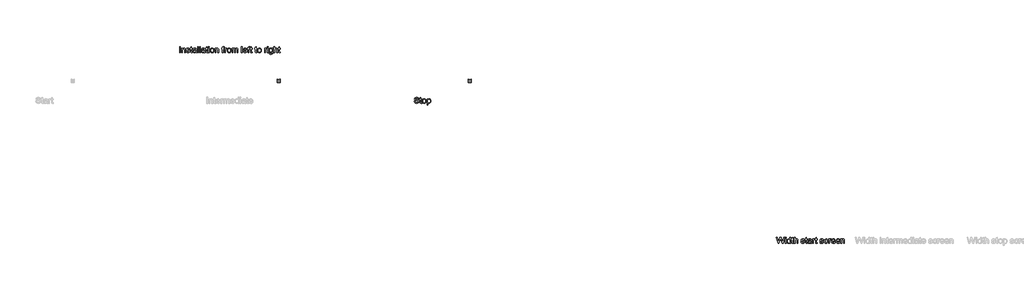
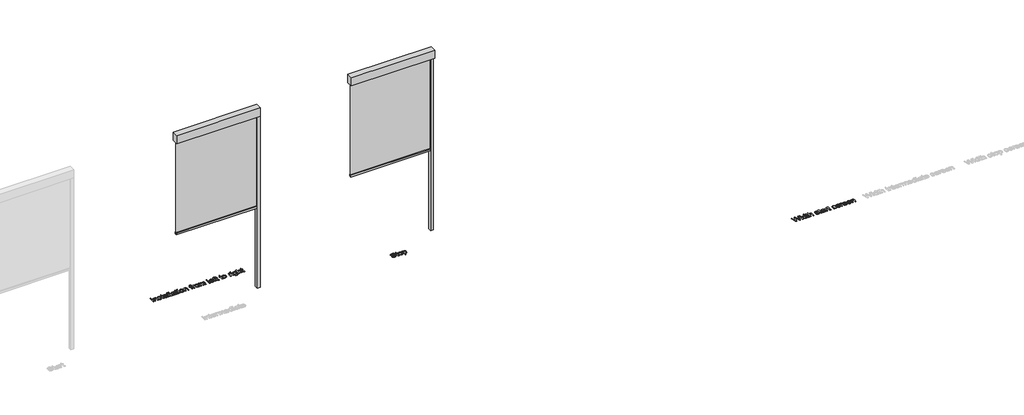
# One storey, part 2 of 4: 5 proxies.
"""IFC4 building model written with IfcOpenShell, lengths in millimetres."""

from ifc_helpers import new_model, si_unit, origin, origin_with_axes, place, context, project, spatial, polyline, outline, extrude, transform, mapped, element, save
from components import generic_models_1d95561a, generic_models_dffd3d31

model = new_model("IFC4")

# Units and contexts
model_context = context("Model", 3, world=origin())
ifc_project = project(units=[si_unit("LENGTHUNIT", "METRE", prefix="MILLI")], contexts=[model_context])

# Site, building, storey
site = spatial("IfcSite", under=ifc_project)
building = spatial("IfcBuilding", under=site)
storey = spatial("IfcBuildingStorey", under=building, Name="Fixscreen Mini CW50 Reynaers Overview Top", Elevation=0.0)

# Proxies
placement = place(None, origin())
generic_models_shape = generic_models_1d95561a(model_context)
element("IfcBuildingElementProxy", 1, Name="Renson_Fixscreen_Minimal_CW50_Reynaers_End : For Reynaers curtain wall - End element - Access downwards - Fabric close to the window", ObjectType="Renson_Fixscreen_Minimal_CW50_Reynaers_End : For Reynaers curtain wall - End element - Access downwards - Fabric close to the window", at=placement, inside=storey, context=model_context, shape_type="MappedRepresentation", body=[
    mapped(generic_models_shape, transform((-860.9331588, -2499.9217625, 0.0), x_axis=(1.0, 0.0, 0.0), y_axis=(0.0, 1.0, 0.0), z_axis=(0.0, 0.0, 1.0))),
])
generic_models_2_shape = generic_models_dffd3d31(model_context)
element("IfcBuildingElementProxy", 2, Name="Renson_Fixscreen_Minimal_CW50_Reynaers_Middle : For Reynaers curtain wall - Middle element - Access downwards - Fabric close to the window", ObjectType="Renson_Fixscreen_Minimal_CW50_Reynaers_Middle : For Reynaers curtain wall - Middle element - Access downwards - Fabric close to the window", at=placement, inside=storey, context=model_context, shape_type="MappedRepresentation", body=[
    mapped(generic_models_2_shape, transform((-4020.9331588, -2499.9217625, 0.0), x_axis=(1.0, 0.0, 0.0), y_axis=(0.0, 1.0, 0.0), z_axis=(0.0, 0.0, 1.0))),
])
element("IfcBuildingElementProxy", 3, Name="100mm Arial", ObjectType="100mm Arial", at=placement, inside=storey, context=model_context, shape_type="SweptSolid", body=[
    extrude(outline(polyline([(4744.2089221, -5915.7019445), (4716.8139762, -5815.2456344), (4729.7634225, -5815.2456344), (4745.6559247, -5881.2681898), (4750.5610179, -5901.6488523), (4755.8094677, -5883.6226345), (4775.7241464, -5815.2456344), (4794.3880263, -5815.2456344), (4808.8580514, -5864.8116019), (4819.6247312, -5901.6488523), (4824.3826716, -5881.856801), (4840.4223266, -5815.2456344), (4853.3717728, -5815.2456344), (4825.9523015, -5915.7019445), (4812.5368714, -5915.7019445), (4788.4528634, -5838.2014709), (4785.0928745, -5827.3857402), (4781.3159527, -5840.4087628), (4759.3656603, -5915.7019445), (4744.2089221, -5915.7019445)])), origin_with_axes(), (0.0, 0.0, 1.0), 5.0),
    extrude(outline(polyline([(4864.3591818, -5915.7019445), (4864.3591818, -5841.9293418), (4876.9162205, -5841.9293418), (4876.9162205, -5915.7019445), (4864.3591818, -5915.7019445)])), origin_with_axes(), (0.0, 0.0, 1.0), 5.0),
    extrude(outline(polyline([(4864.3591818, -5827.8026731), (4864.3591818, -5815.2456344), (4876.9162205, -5815.2456344), (4876.9162205, -5827.8026731), (4864.3591818, -5827.8026731)])), origin_with_axes(), (0.0, 0.0, 1.0), 5.0),
    extrude(outline(polyline([(4941.2710442, -5915.7019445), (4941.2710442, -5903.8561443), (4932.9630425, -5913.9177168), (4921.4789929, -5917.2715744), (4905.9298472, -5912.415532), (4894.9424383, -5898.8652119), (4891.0428891, -5878.8892195), (4894.63587, -5858.9009645), (4905.4025497, -5845.1421778), (4921.4299419, -5840.3597119), (4933.0059621, -5843.7810145), (4941.2710442, -5852.671496), (4941.2710442, -5815.2456344), (4953.828083, -5815.2456344), (4953.828083, -5915.7019445), (4941.2710442, -5915.7019445)]), holes=[polyline([(4903.5999279, -5878.8401686), (4905.0162736, -5890.1985252), (4909.2653106, -5898.2766007), (4915.4395968, -5903.1050519), (4922.6316898, -5904.7145356), (4929.8207171, -5903.1786283), (4935.8386534, -5898.5709063), (4939.9129465, -5890.8055305), (4941.2710442, -5879.7966618), (4939.8884211, -5867.7607892), (4935.7405516, -5859.4159993), (4929.5693311, -5854.5415628), (4922.116655, -5852.9167507), (4914.8509856, -5854.4771835), (4908.8974286, -5859.1584819), (4904.9243031, -5867.1997691), (4903.5999279, -5878.8401686)])]), origin_with_axes(), (0.0, 0.0, 1.0), 5.0),
    extrude(outline(polyline([(4999.3473485, -5905.2295704), (5000.9169784, -5916.0698265), (4991.5237248, -5917.2715744), (4981.0022997, -5915.1869097), (4975.7538499, -5909.7177307), (4974.233271, -5895.4684348), (4974.233271, -5854.4863805), (4964.8154919, -5854.4863805), (4964.8154919, -5841.9293418), (4974.233271, -5841.9293418), (4974.233271, -5824.0012259), (4986.7903098, -5816.6190605), (4986.7903098, -5841.9293418), (4999.3473485, -5841.9293418), (4999.3473485, -5854.4863805), (4986.7903098, -5854.4863805), (4986.7903098, -5895.1005528), (4987.4524974, -5901.5752759), (4989.5984757, -5903.868407), (4993.8781695, -5904.7145356), (4999.3473485, -5905.2295704)])), origin_with_axes(), (0.0, 0.0, 1.0), 5.0),
    extrude(outline(polyline([(5011.9043873, -5915.7019445), (5011.9043873, -5815.2456344), (5024.4614261, -5815.2456344), (5024.4614261, -5852.1809867), (5034.2532185, -5843.3150306), (5046.3136166, -5840.3597119), (5060.4157597, -5843.5848107), (5068.9751475, -5852.4998178), (5071.5503214, -5869.0054566), (5071.5503214, -5915.7019445), (5058.9932827, -5915.7019445), (5058.9932827, -5870.3053063), (5054.9956317, -5857.0615545), (5043.6648662, -5852.9167507), (5033.3764331, -5855.7126538), (5026.5093025, -5863.2910229), (5024.4614261, -5876.5102493), (5024.4614261, -5915.7019445), (5011.9043873, -5915.7019445)])), origin_with_axes(), (0.0, 0.0, 1.0), 5.0),
    extrude(outline(polyline([(5123.3481064, -5893.7271267), (5135.9051451, -5892.1574968), (5141.7176807, -5901.477174), (5155.0350089, -5904.7145356), (5167.8373023, -5901.7469542), (5172.0066316, -5894.7817217), (5167.8127769, -5889.1408645), (5154.8878561, -5885.5601464), (5135.9787215, -5879.4165171), (5127.7259021, -5872.2428182), (5124.9177362, -5862.1138006), (5127.1740791, -5852.7573351), (5133.3299712, -5845.6081617), (5141.3130105, -5841.8925536), (5152.1164784, -5840.3597119), (5167.3958439, -5842.8245213), (5177.1079286, -5849.4954481), (5181.4244107, -5860.7648999), (5168.8673719, -5862.3345298), (5164.1462196, -5855.4060855), (5153.097497, -5852.9167507), (5141.0800185, -5855.2957209), (5137.474775, -5860.8384763), (5138.9708284, -5864.4927708), (5143.6551925, -5867.2641485), (5154.4709232, -5869.9374243), (5172.9018111, -5875.8480617), (5181.4611989, -5882.543514), (5184.5636704, -5893.4573465), (5180.9216386, -5905.4748251), (5170.4124763, -5914.1936283), (5154.8633306, -5917.2715744), (5142.2020586, -5915.7877837), (5132.9620892, -5911.3364115), (5126.7939344, -5903.9665089), (5123.3481064, -5893.7271267)])), origin_with_axes(), (0.0, 0.0, 1.0), 5.0),
    extrude(outline(polyline([(5225.3740464, -5905.2295704), (5226.9436762, -5916.0698265), (5217.5504226, -5917.2715744), (5207.0289975, -5915.1869097), (5201.7805477, -5909.7177307), (5200.2599688, -5895.4684348), (5200.2599688, -5854.4863805), (5190.8421898, -5854.4863805), (5190.8421898, -5841.9293418), (5200.2599688, -5841.9293418), (5200.2599688, -5824.0012259), (5212.8170076, -5816.6190605), (5212.8170076, -5841.9293418), (5225.3740464, -5841.9293418), (5225.3740464, -5854.4863805), (5212.8170076, -5854.4863805), (5212.8170076, -5895.1005528), (5213.4791952, -5901.5752759), (5215.6251735, -5903.868407), (5219.9048674, -5904.7145356), (5225.3740464, -5905.2295704)])), origin_with_axes(), (0.0, 0.0, 1.0), 5.0),
    extrude(outline(polyline([(5285.0199805, -5906.2841654), (5272.8430865, -5914.7945023), (5259.3908682, -5917.2715744), (5248.8970343, -5915.7816523), (5241.156184, -5911.311886), (5236.3829151, -5904.5244632), (5234.7918254, -5896.0815714), (5237.1953211, -5886.1487576), (5243.5106287, -5878.9382705), (5252.3030084, -5874.8179921), (5263.16779, -5872.9295312), (5284.9464041, -5868.6130491), (5285.0199805, -5865.817146), (5281.5618898, -5856.5465197), (5267.6804758, -5852.9167507), (5254.9762842, -5855.3325091), (5248.9184941, -5863.9041596), (5236.3614553, -5862.3345298), (5241.7938461, -5850.0717966), (5252.7322041, -5842.8858349), (5269.2991566, -5840.3597119), (5284.5172085, -5842.5915293), (5293.1133844, -5848.1955984), (5296.9638826, -5856.718198), (5297.5770193, -5867.7056069), (5297.5770193, -5883.3283289), (5298.2146814, -5905.1437313), (5300.716279, -5915.7019445), (5288.1592402, -5915.7019445), (5285.0199805, -5906.2841654)]), holes=[polyline([(5285.0199805, -5881.1700879), (5264.7619453, -5885.0205861), (5253.9584774, -5887.0561998), (5249.0656469, -5890.3671378), (5247.3488642, -5895.1986547), (5251.0889978, -5901.9922088), (5262.064144, -5904.7145356), (5274.7683356, -5901.710166), (5282.9598413, -5894.4383652), (5284.9464041, -5884.7262805), (5285.0199805, -5881.1700879)])]), origin_with_axes(), (0.0, 0.0, 1.0), 5.0),
    extrude(outline(polyline([(5314.8429476, -5915.7019445), (5314.8429476, -5841.9293418), (5325.8303565, -5841.9293418), (5325.8303565, -5852.8431743), (5333.6294548, -5842.7877331), (5341.477604, -5840.3597119), (5354.0836937, -5844.2347356), (5349.889839, -5855.4919246), (5341.0606711, -5852.9167507), (5333.9605486, -5855.3938228), (5329.4356001, -5862.2609534), (5327.3999864, -5876.9271822), (5327.3999864, -5915.7019445), (5314.8429476, -5915.7019445)])), origin_with_axes(), (0.0, 0.0, 1.0), 5.0),
    extrude(outline(polyline([(5388.6155504, -5905.2295704), (5390.1851802, -5916.0698265), (5380.7919266, -5917.2715744), (5370.2705015, -5915.1869097), (5365.0220517, -5909.7177307), (5363.5014728, -5895.4684348), (5363.5014728, -5854.4863805), (5354.0836937, -5854.4863805), (5354.0836937, -5841.9293418), (5363.5014728, -5841.9293418), (5363.5014728, -5824.0012259), (5376.0585116, -5816.6190605), (5376.0585116, -5841.9293418), (5388.6155504, -5841.9293418), (5388.6155504, -5854.4863805), (5376.0585116, -5854.4863805), (5376.0585116, -5895.1005528), (5376.7206992, -5901.5752759), (5378.8666775, -5903.868407), (5383.1463714, -5904.7145356), (5388.6155504, -5905.2295704)])), origin_with_axes(), (0.0, 0.0, 1.0), 5.0),
    extrude(outline(polyline([(5435.7044457, -5893.7271267), (5448.2614845, -5892.1574968), (5454.07402, -5901.477174), (5467.3913483, -5904.7145356), (5480.1936417, -5901.7469542), (5484.362971, -5894.7817217), (5480.1691162, -5889.1408645), (5467.2441955, -5885.5601464), (5448.3350609, -5879.4165171), (5440.0822415, -5872.2428182), (5437.2740756, -5862.1138006), (5439.5304185, -5852.7573351), (5445.6863105, -5845.6081617), (5453.6693498, -5841.8925536), (5464.4728178, -5840.3597119), (5479.7521833, -5842.8245213), (5489.464268, -5849.4954481), (5493.78075, -5860.7648999), (5481.2237113, -5862.3345298), (5476.502559, -5855.4060855), (5465.4538364, -5852.9167507), (5453.4363579, -5855.2957209), (5449.8311144, -5860.8384763), (5451.3271678, -5864.4927708), (5456.0115319, -5867.2641485), (5466.8272625, -5869.9374243), (5485.2581505, -5875.8480617), (5493.8175382, -5882.543514), (5496.9200097, -5893.4573465), (5493.277978, -5905.4748251), (5482.7688157, -5914.1936283), (5467.21967, -5917.2715744), (5454.558398, -5915.7877837), (5445.3184285, -5911.3364115), (5439.1502738, -5903.9665089), (5435.7044457, -5893.7271267)])), origin_with_axes(), (0.0, 0.0, 1.0), 5.0),
    extrude(outline(polyline([(5558.1355737, -5889.0182371), (5570.6926125, -5890.587867), (5567.1916022, -5901.7561512), (5560.6126458, -5910.1959773), (5551.5750115, -5915.5026751), (5540.6979672, -5917.2715744), (5527.3407851, -5914.8036993), (5516.8960021, -5907.4000742), (5510.1545645, -5895.3856613), (5507.9074187, -5879.0854233), (5511.7456541, -5858.2265141), (5523.4443016, -5844.8233468), (5540.5262889, -5840.3597119), (5551.1366188, -5841.8925536), (5559.6193644, -5846.4910785), (5565.7047458, -5853.9100321), (5569.1229827, -5863.9041596), (5556.5659439, -5865.4737894), (5550.7411456, -5856.0682731), (5540.6243908, -5852.9167507), (5532.5095271, -5854.4679864), (5526.0685265, -5859.1216937), (5521.8654747, -5867.1292584), (5520.4644574, -5878.7420667), (5521.8348179, -5890.5112249), (5525.9458992, -5898.5463808), (5532.2704038, -5903.1724969), (5540.2810342, -5904.7145356), (5552.1145717, -5900.8640374), (5558.1355737, -5889.0182371)])), origin_with_axes(), (0.0, 0.0, 1.0), 5.0),
    extrude(outline(polyline([(5581.6800214, -5915.7019445), (5581.6800214, -5841.9293418), (5592.6674303, -5841.9293418), (5592.6674303, -5852.8431743), (5600.4665286, -5842.7877331), (5608.3146779, -5840.3597119), (5620.9207676, -5844.2347356), (5616.7269128, -5855.4919246), (5607.8977449, -5852.9167507), (5600.7976224, -5855.3938228), (5596.2726739, -5862.2609534), (5594.2370602, -5876.9271822), (5594.2370602, -5915.7019445), (5581.6800214, -5915.7019445)])), origin_with_axes(), (0.0, 0.0, 1.0), 5.0),
    extrude(outline(polyline([(5680.4195489, -5893.7271267), (5692.731333, -5895.2967565), (5688.2952893, -5904.5735142), (5681.2166266, -5911.5080898), (5671.6547604, -5915.8307032), (5659.7691063, -5917.2715744), (5645.0354324, -5914.7853052), (5633.6985355, -5907.3264978), (5626.4696543, -5895.37953), (5624.0600273, -5879.4287798), (5626.4941798, -5862.941535), (5633.7966374, -5850.6113568), (5644.9802501, -5842.9226231), (5659.0578677, -5840.3597119), (5672.6970927, -5842.9164918), (5683.5955968, -5850.5868314), (5690.7417046, -5862.8924841), (5693.1237405, -5879.3552034), (5693.0501641, -5882.7397178), (5636.617066, -5882.7397178), (5638.7906355, -5892.1391027), (5643.8398159, -5899.0491529), (5651.1269451, -5903.2981899), (5660.0143609, -5904.7145356), (5672.326145, -5902.0903107), (5680.4195489, -5893.7271267)]), holes=[polyline([(5636.617066, -5870.182679), (5680.5667017, -5870.182679), (5675.5389811, -5858.8028626), (5668.2181294, -5854.3882787), (5659.0088168, -5852.9167507), (5643.5455103, -5857.6133775), (5638.6802709, -5863.1040163), (5636.617066, -5870.182679)])]), origin_with_axes(), (0.0, 0.0, 1.0), 5.0),
    extrude(outline(polyline([(5757.3314114, -5893.7271267), (5769.6431955, -5895.2967565), (5765.2071518, -5904.5735142), (5758.128489, -5911.5080898), (5748.5666229, -5915.8307032), (5736.6809687, -5917.2715744), (5721.9472948, -5914.7853052), (5710.610398, -5907.3264978), (5703.3815168, -5895.37953), (5700.9718897, -5879.4287798), (5703.4060423, -5862.941535), (5710.7084999, -5850.6113568), (5721.8921125, -5842.9226231), (5735.9697302, -5840.3597119), (5749.6089552, -5842.9164918), (5760.5074593, -5850.5868314), (5767.653567, -5862.8924841), (5770.035603, -5879.3552034), (5769.9620266, -5882.7397178), (5713.5289285, -5882.7397178), (5715.702498, -5892.1391027), (5720.7516783, -5899.0491529), (5728.0388075, -5903.2981899), (5736.9262234, -5904.7145356), (5749.2380075, -5902.0903107), (5757.3314114, -5893.7271267)]), holes=[polyline([(5713.5289285, -5870.182679), (5757.4785642, -5870.182679), (5752.4508436, -5858.8028626), (5745.1299919, -5854.3882787), (5735.9206793, -5852.9167507), (5720.4573727, -5857.6133775), (5715.5921334, -5863.1040163), (5713.5289285, -5870.182679)])]), origin_with_axes(), (0.0, 0.0, 1.0), 5.0),
    extrude(outline(polyline([(5782.5926417, -5915.7019445), (5782.5926417, -5841.9293418), (5795.1496805, -5841.9293418), (5795.1496805, -5852.2300376), (5804.7514006, -5843.3272933), (5817.8602623, -5840.3597119), (5829.7183253, -5842.7509449), (5837.8117292, -5849.0294643), (5841.5763883, -5858.2633023), (5842.2385759, -5870.4034082), (5842.2385759, -5915.7019445), (5829.6815371, -5915.7019445), (5829.6815371, -5872.0956654), (5828.2345346, -5860.9856291), (5823.1209749, -5855.1117799), (5814.5002734, -5852.9167507), (5800.8763769, -5857.8463694), (5796.5813546, -5864.9894115), (5795.1496805, -5876.5593002), (5795.1496805, -5915.7019445), (5782.5926417, -5915.7019445)])), origin_with_axes(), (0.0, 0.0, 1.0), 5.0),
])
element("IfcBuildingElementProxy", 4, Name="100mm Arial", ObjectType="100mm Arial", at=placement, inside=storey, context=model_context, shape_type="SweptSolid", body=[
    extrude(outline(polyline([(-1271.3451385, -3561.5189543), (-1258.7880997, -3561.5189543), (-1254.7413978, -3574.0882558), (-1244.8576349, -3582.0345069), (-1229.7989985, -3585.063402), (-1216.677874, -3582.7702709), (-1208.2043254, -3576.467226), (-1205.420685, -3568.0427284), (-1207.5053496, -3560.2068419), (-1216.0402119, -3554.5046709), (-1234.3239471, -3549.7099423), (-1254.0056338, -3543.517262), (-1264.6864744, -3534.1730593), (-1268.2058788, -3521.689597), (-1263.8526085, -3507.4770892), (-1251.1361542, -3497.4461735), (-1232.5213253, -3494.0248709), (-1212.6556975, -3497.605589), (-1199.4119457, -3508.1270141), (-1194.4332761, -3523.847838), (-1206.9903148, -3523.847838), (-1209.2957087, -3516.355308), (-1214.1027001, -3510.9474427), (-1232.030816, -3506.5819097), (-1250.0079828, -3510.8983918), (-1255.64884, -3521.321715), (-1251.651189, -3530.0282555), (-1231.1478992, -3537.0425389), (-1208.9278267, -3543.3455837), (-1196.7754581, -3553.5236523), (-1192.8636462, -3567.7238973), (-1197.3640693, -3582.7457454), (-1210.3135155, -3593.7086289), (-1229.3084892, -3597.6204408), (-1251.7370282, -3593.4020606), (-1265.9250104, -3580.697869), (-1271.3451385, -3561.5189543)])), origin_with_axes(), (0.0, 0.0, 1.0), 5.0),
    extrude(outline(polyline([(-1148.9140105, -3585.5784368), (-1147.3443807, -3596.4186929), (-1156.7376343, -3597.6204408), (-1167.2590593, -3595.5357761), (-1172.5075091, -3590.0665971), (-1174.0280881, -3575.8173012), (-1174.0280881, -3534.8352469), (-1183.4458671, -3534.8352469), (-1183.4458671, -3522.2782082), (-1174.0280881, -3522.2782082), (-1174.0280881, -3504.3500923), (-1161.4710493, -3496.9679269), (-1161.4710493, -3522.2782082), (-1148.9140105, -3522.2782082), (-1148.9140105, -3534.8352469), (-1161.4710493, -3534.8352469), (-1161.4710493, -3575.4494192), (-1160.8088617, -3581.9241423), (-1158.6628834, -3584.2172734), (-1154.3831895, -3585.063402), (-1148.9140105, -3585.5784368)])), origin_with_axes(), (0.0, 0.0, 1.0), 5.0),
    extrude(outline(polyline([(-1139.4962314, -3559.1645095), (-1136.780036, -3541.3774151), (-1128.6314498, -3528.8755586), (-1118.5637459, -3522.7503234), (-1106.5094792, -3520.7085783), (-1093.317844, -3523.1948475), (-1082.7810905, -3530.6536549), (-1075.8741061, -3542.4963895), (-1073.5717779, -3558.1344399), (-1077.6430053, -3580.4771398), (-1089.5010683, -3593.1200177), (-1106.5094792, -3597.6204408), (-1119.8605299, -3595.1433687), (-1130.3850207, -3587.7121524), (-1137.2184288, -3575.6210975), (-1139.4962314, -3559.1645095)]), holes=[polyline([(-1126.9391927, -3559.1399841), (-1125.4860588, -3570.504472), (-1121.1266571, -3578.6009416), (-1114.5660949, -3583.4477869), (-1106.5094792, -3585.063402), (-1098.4896517, -3583.4385898), (-1091.9413522, -3578.5641534), (-1087.5819506, -3570.3603849), (-1086.1288167, -3558.7475766), (-1087.5911476, -3547.7141824), (-1091.9781404, -3539.7280775), (-1098.535637, -3534.8812322), (-1106.5094792, -3533.2656171), (-1114.5660949, -3534.8751008), (-1121.1266571, -3539.703552), (-1125.4860588, -3547.7816275), (-1126.9391927, -3559.1399841)])]), origin_with_axes(), (0.0, 0.0, 1.0), 5.0),
    extrude(outline(polyline([(-1059.4451093, -3624.3041481), (-1059.4451093, -3522.2782082), (-1046.8880705, -3522.2782082), (-1046.8880705, -3534.5899923), (-1038.2060554, -3524.1789318), (-1026.4828825, -3520.7085783), (-1010.5658549, -3525.5646206), (-1000.1670571, -3539.2498309), (-996.6599154, -3558.6004238), (-1000.6207783, -3578.9442981), (-1012.123222, -3592.8011866), (-1028.0034614, -3597.6204408), (-1038.9295567, -3594.3953419), (-1046.8880705, -3586.2406244), (-1046.8880705, -3624.3041481), (-1059.4451093, -3624.3041481)]), holes=[polyline([(-1046.8880705, -3559.7531207), (-1045.5299728, -3571.0103098), (-1041.4556797, -3578.8829845), (-1035.4438748, -3583.5182976), (-1028.2732416, -3585.063402), (-1020.9861124, -3583.4631153), (-1014.8210233, -3578.6622553), (-1010.6179715, -3570.5014064), (-1009.2169542, -3558.821153), (-1010.584249, -3547.6252776), (-1014.6861332, -3539.6422383), (-1020.6887411, -3534.8597724), (-1027.7582068, -3533.2656171), (-1034.8552636, -3534.9609399), (-1041.0877977, -3540.0469085), (-1045.4380023, -3548.3641073), (-1046.8880705, -3559.7531207)])]), origin_with_axes(), (0.0, 0.0, 1.0), 5.0),
])
element("IfcBuildingElementProxy", 5, Name="100mm Arial", ObjectType="100mm Arial", at=placement, inside=storey, context=model_context, shape_type="SweptSolid", body=[
    extrude(outline(polyline([(-5153.0821471, -2756.0508109), (-5153.0821471, -2655.5945008), (-5140.5251083, -2655.5945008), (-5140.5251083, -2756.0508109), (-5153.0821471, -2756.0508109)])), origin_with_axes(), (0.0, 0.0, 1.0), 5.0),
    extrude(outline(polyline([(-5116.9806606, -2756.0508109), (-5116.9806606, -2682.2782082), (-5104.4236218, -2682.2782082), (-5104.4236218, -2692.578904), (-5094.8219018, -2683.6761597), (-5081.71304, -2680.7085783), (-5069.854977, -2683.0998113), (-5061.7615731, -2689.3783307), (-5057.9969141, -2698.6121687), (-5057.3347265, -2710.7522746), (-5057.3347265, -2756.0508109), (-5069.8917652, -2756.0508109), (-5069.8917652, -2712.4445318), (-5071.3387677, -2701.3344955), (-5076.4523275, -2695.4606463), (-5085.0730289, -2693.2656171), (-5098.6969255, -2698.1952358), (-5102.9919477, -2705.3382779), (-5104.4236218, -2716.9081666), (-5104.4236218, -2756.0508109), (-5116.9806606, -2756.0508109)])), origin_with_axes(), (0.0, 0.0, 1.0), 5.0),
    extrude(outline(polyline([(-5044.7776877, -2734.0759931), (-5032.2206489, -2732.5063632), (-5026.4081134, -2741.8260404), (-5013.0907852, -2745.063402), (-5000.2884917, -2742.0958206), (-4996.1191625, -2735.1305881), (-5000.3130172, -2729.4897309), (-5013.237938, -2725.9090128), (-5032.1470725, -2719.7653835), (-5040.399892, -2712.5916846), (-5043.2080578, -2702.462667), (-5040.9517149, -2693.1062015), (-5034.7958229, -2685.9570281), (-5026.8127836, -2682.24142), (-5016.0093157, -2680.7085783), (-5000.7299501, -2683.1733877), (-4991.0178655, -2689.8443145), (-4986.7013834, -2701.1137663), (-4999.2584222, -2702.6833961), (-5003.9795744, -2695.7549519), (-5015.028297, -2693.2656171), (-5027.0457755, -2695.6445873), (-5030.6510191, -2701.1873427), (-5029.1549656, -2704.8416372), (-5024.4706016, -2707.6130149), (-5013.6548709, -2710.2862907), (-4995.2239829, -2716.1969281), (-4986.6645952, -2722.8923804), (-4983.5621237, -2733.8062129), (-4987.2041554, -2745.8236915), (-4997.7133178, -2754.5424947), (-5013.2624634, -2757.6204408), (-5025.9237354, -2756.13665), (-5035.1637049, -2751.6852779), (-5041.3318597, -2744.3153753), (-5044.7776877, -2734.0759931)])), origin_with_axes(), (0.0, 0.0, 1.0), 5.0),
    extrude(outline(polyline([(-4942.7517477, -2745.5784368), (-4941.1821179, -2756.4186929), (-4950.5753715, -2757.6204408), (-4961.0967965, -2755.5357761), (-4966.3452463, -2750.0665971), (-4967.8658252, -2735.8173012), (-4967.8658252, -2694.8352469), (-4977.2836043, -2694.8352469), (-4977.2836043, -2682.2782082), (-4967.8658252, -2682.2782082), (-4967.8658252, -2664.3500923), (-4955.3087865, -2656.9679269), (-4955.3087865, -2682.2782082), (-4942.7517477, -2682.2782082), (-4942.7517477, -2694.8352469), (-4955.3087865, -2694.8352469), (-4955.3087865, -2735.4494192), (-4954.6465989, -2741.9241423), (-4952.5006206, -2744.2172734), (-4948.2209267, -2745.063402), (-4942.7517477, -2745.5784368)])), origin_with_axes(), (0.0, 0.0, 1.0), 5.0),
    extrude(outline(polyline([(-4883.1058135, -2746.6330318), (-4895.2827076, -2755.1433687), (-4908.7349259, -2757.6204408), (-4919.2287598, -2756.1305187), (-4926.9696101, -2751.6607524), (-4931.742879, -2744.8733296), (-4933.3339686, -2736.4304378), (-4930.9304729, -2726.497624), (-4924.6151653, -2719.2871369), (-4915.8227857, -2715.1668585), (-4904.9580041, -2713.2783976), (-4883.1793899, -2708.9619155), (-4883.1058135, -2706.1660124), (-4886.5639043, -2696.8953861), (-4900.4453183, -2693.2656171), (-4913.1495098, -2695.6813755), (-4919.2073, -2704.253026), (-4931.7643388, -2702.6833961), (-4926.331948, -2690.420663), (-4915.39359, -2683.2347013), (-4898.8266375, -2680.7085783), (-4883.6085856, -2682.9403957), (-4875.0124097, -2688.5444648), (-4871.1619114, -2697.0670644), (-4870.5487748, -2708.0544733), (-4870.5487748, -2723.6771953), (-4869.9111127, -2745.4925977), (-4867.4095151, -2756.0508109), (-4879.9665539, -2756.0508109), (-4883.1058135, -2746.6330318)]), holes=[polyline([(-4883.1058135, -2721.5189543), (-4903.3638487, -2725.3694525), (-4914.1673167, -2727.4050662), (-4919.0601472, -2730.7160042), (-4920.7769299, -2735.5475211), (-4917.0367962, -2742.3410752), (-4906.06165, -2745.063402), (-4893.3574585, -2742.0590324), (-4885.1659527, -2734.7872316), (-4883.1793899, -2725.0751469), (-4883.1058135, -2721.5189543)])]), origin_with_axes(), (0.0, 0.0, 1.0), 5.0),
    extrude(outline(polyline([(-4853.2828465, -2756.0508109), (-4853.2828465, -2655.5945008), (-4840.7258077, -2655.5945008), (-4840.7258077, -2756.0508109), (-4853.2828465, -2756.0508109)])), origin_with_axes(), (0.0, 0.0, 1.0), 5.0),
    extrude(outline(polyline([(-4821.8902495, -2756.0508109), (-4821.8902495, -2655.5945008), (-4809.3332108, -2655.5945008), (-4809.3332108, -2756.0508109), (-4821.8902495, -2756.0508109)])), origin_with_axes(), (0.0, 0.0, 1.0), 5.0),
    extrude(outline(polyline([(-4743.4087572, -2746.6330318), (-4755.5856513, -2755.1433687), (-4769.0378696, -2757.6204408), (-4779.5317035, -2756.1305187), (-4787.2725538, -2751.6607524), (-4792.0458227, -2744.8733296), (-4793.6369123, -2736.4304378), (-4791.2334166, -2726.497624), (-4784.918109, -2719.2871369), (-4776.1257293, -2715.1668585), (-4765.2609478, -2713.2783976), (-4743.4823336, -2708.9619155), (-4743.4087572, -2706.1660124), (-4746.866848, -2696.8953861), (-4760.748262, -2693.2656171), (-4773.4524535, -2695.6813755), (-4779.5102437, -2704.253026), (-4792.0672825, -2702.6833961), (-4786.6348917, -2690.420663), (-4775.6965337, -2683.2347013), (-4759.1295812, -2680.7085783), (-4743.9115293, -2682.9403957), (-4735.3153534, -2688.5444648), (-4731.4648551, -2697.0670644), (-4730.8517185, -2708.0544733), (-4730.8517185, -2723.6771953), (-4730.2140564, -2745.4925977), (-4727.7124588, -2756.0508109), (-4740.2694976, -2756.0508109), (-4743.4087572, -2746.6330318)]), holes=[polyline([(-4743.4087572, -2721.5189543), (-4763.6667924, -2725.3694525), (-4774.4702604, -2727.4050662), (-4779.3630909, -2730.7160042), (-4781.0798736, -2735.5475211), (-4777.3397399, -2742.3410752), (-4766.3645937, -2745.063402), (-4753.6604022, -2742.0590324), (-4745.4688964, -2734.7872316), (-4743.4823336, -2725.0751469), (-4743.4087572, -2721.5189543)])]), origin_with_axes(), (0.0, 0.0, 1.0), 5.0),
    extrude(outline(polyline([(-4686.9020828, -2745.5784368), (-4685.3324529, -2756.4186929), (-4694.7257065, -2757.6204408), (-4705.2471316, -2755.5357761), (-4710.4955814, -2750.0665971), (-4712.0161603, -2735.8173012), (-4712.0161603, -2694.8352469), (-4721.4339394, -2694.8352469), (-4721.4339394, -2682.2782082), (-4712.0161603, -2682.2782082), (-4712.0161603, -2664.3500923), (-4699.4591216, -2656.9679269), (-4699.4591216, -2682.2782082), (-4686.9020828, -2682.2782082), (-4686.9020828, -2694.8352469), (-4699.4591216, -2694.8352469), (-4699.4591216, -2735.4494192), (-4698.796934, -2741.9241423), (-4696.6509557, -2744.2172734), (-4692.3712618, -2745.063402), (-4686.9020828, -2745.5784368)])), origin_with_axes(), (0.0, 0.0, 1.0), 5.0),
    extrude(outline(polyline([(-4674.345044, -2668.1515395), (-4674.345044, -2655.5945008), (-4661.7880052, -2655.5945008), (-4661.7880052, -2668.1515395), (-4674.345044, -2668.1515395)])), origin_with_axes(), (0.0, 0.0, 1.0), 5.0),
    extrude(outline(polyline([(-4674.345044, -2756.0508109), (-4674.345044, -2682.2782082), (-4661.7880052, -2682.2782082), (-4661.7880052, -2756.0508109), (-4674.345044, -2756.0508109)])), origin_with_axes(), (0.0, 0.0, 1.0), 5.0),
    extrude(outline(polyline([(-4646.0917068, -2719.1645095), (-4643.3755114, -2701.3774151), (-4635.2269252, -2688.8755586), (-4625.1592213, -2682.7503234), (-4613.1049546, -2680.7085783), (-4599.9133193, -2683.1948475), (-4589.3765659, -2690.6536549), (-4582.4695814, -2702.4963895), (-4580.1672533, -2718.1344399), (-4584.2384807, -2740.4771398), (-4596.0965436, -2753.1200177), (-4613.1049546, -2757.6204408), (-4626.4560053, -2755.1433687), (-4636.980496, -2747.7121524), (-4643.8139041, -2735.6210975), (-4646.0917068, -2719.1645095)]), holes=[polyline([(-4633.534668, -2719.1399841), (-4632.0815341, -2730.504472), (-4627.7221325, -2738.6009416), (-4621.1615702, -2743.4477869), (-4613.1049546, -2745.063402), (-4605.0851271, -2743.4385898), (-4598.5368275, -2738.5641534), (-4594.1774259, -2730.3603849), (-4592.724292, -2718.7475766), (-4594.186623, -2707.7141824), (-4598.5736157, -2699.7280775), (-4605.1311123, -2694.8812322), (-4613.1049546, -2693.2656171), (-4621.1615702, -2694.8751008), (-4627.7221325, -2699.703552), (-4632.0815341, -2707.7816275), (-4633.534668, -2719.1399841)])]), origin_with_axes(), (0.0, 0.0, 1.0), 5.0),
    extrude(outline(polyline([(-4566.0405846, -2756.0508109), (-4566.0405846, -2682.2782082), (-4553.4835459, -2682.2782082), (-4553.4835459, -2692.578904), (-4543.8818258, -2683.6761597), (-4530.772964, -2680.7085783), (-4518.9149011, -2683.0998113), (-4510.8214972, -2689.3783307), (-4507.0568381, -2698.6121687), (-4506.3946505, -2710.7522746), (-4506.3946505, -2756.0508109), (-4518.9516893, -2756.0508109), (-4518.9516893, -2712.4445318), (-4520.3986918, -2701.3344955), (-4525.5122515, -2695.4606463), (-4534.1329529, -2693.2656171), (-4547.7568495, -2698.1952358), (-4552.0518718, -2705.3382779), (-4553.4835459, -2716.9081666), (-4553.4835459, -2756.0508109), (-4566.0405846, -2756.0508109)])), origin_with_axes(), (0.0, 0.0, 1.0), 5.0),
    extrude(outline(polyline([(-4446.7487163, -2756.0508109), (-4446.7487163, -2694.8352469), (-4457.7361253, -2694.8352469), (-4457.7361253, -2682.2782082), (-4446.7487163, -2682.2782082), (-4446.7487163, -2674.8469918), (-4445.4243412, -2664.3746177), (-4438.998669, -2656.8943505), (-4426.3435283, -2654.0248709), (-4414.8901356, -2655.398297), (-4416.7295455, -2667.1705209), (-4423.9645581, -2666.5819097), (-4431.874021, -2668.6665743), (-4434.1916776, -2676.4411472), (-4434.1916776, -2682.2782082), (-4420.0650089, -2682.2782082), (-4420.0650089, -2694.8352469), (-4434.1916776, -2694.8352469), (-4434.1916776, -2756.0508109), (-4446.7487163, -2756.0508109)])), origin_with_axes(), (0.0, 0.0, 1.0), 5.0),
    extrude(outline(polyline([(-4409.0776, -2756.0508109), (-4409.0776, -2682.2782082), (-4398.0901911, -2682.2782082), (-4398.0901911, -2693.1920407), (-4390.2910928, -2683.1365995), (-4382.4429436, -2680.7085783), (-4369.8368539, -2684.583602), (-4374.0307086, -2695.840791), (-4382.8598765, -2693.2656171), (-4389.959999, -2695.7426892), (-4394.4849476, -2702.6098198), (-4396.5205613, -2717.2760486), (-4396.5205613, -2756.0508109), (-4409.0776, -2756.0508109)])), origin_with_axes(), (0.0, 0.0, 1.0), 5.0),
    extrude(outline(polyline([(-4365.1279643, -2719.1645095), (-4362.4117689, -2701.3774151), (-4354.2631827, -2688.8755586), (-4344.1954788, -2682.7503234), (-4332.1412121, -2680.7085783), (-4318.9495769, -2683.1948475), (-4308.4128234, -2690.6536549), (-4301.505839, -2702.4963895), (-4299.2035108, -2718.1344399), (-4303.2747382, -2740.4771398), (-4315.1328012, -2753.1200177), (-4332.1412121, -2757.6204408), (-4345.4922628, -2755.1433687), (-4356.0167536, -2747.7121524), (-4362.8501617, -2735.6210975), (-4365.1279643, -2719.1645095)]), holes=[polyline([(-4352.5709256, -2719.1399841), (-4351.1177917, -2730.504472), (-4346.75839, -2738.6009416), (-4340.1978278, -2743.4477869), (-4332.1412121, -2745.063402), (-4324.1213846, -2743.4385898), (-4317.5730851, -2738.5641534), (-4313.2136835, -2730.3603849), (-4311.7605496, -2718.7475766), (-4313.2228805, -2707.7141824), (-4317.6098733, -2699.7280775), (-4324.1673699, -2694.8812322), (-4332.1412121, -2693.2656171), (-4340.1978278, -2694.8751008), (-4346.75839, -2699.703552), (-4351.1177917, -2707.7816275), (-4352.5709256, -2719.1399841)])]), origin_with_axes(), (0.0, 0.0, 1.0), 5.0),
    extrude(outline(polyline([(-4285.0768422, -2756.0508109), (-4285.0768422, -2682.2782082), (-4272.5198034, -2682.2782082), (-4272.5198034, -2694.418314), (-4263.8868393, -2684.4732374), (-4251.5995806, -2680.7085783), (-4239.0180164, -2684.5468138), (-4232.1018349, -2695.3012308), (-4222.3039111, -2684.3567414), (-4209.9308133, -2680.7085783), (-4200.4915744, -2682.2260915), (-4193.5110136, -2686.7786312), (-4189.1975972, -2694.4888247), (-4187.7597917, -2705.4792993), (-4187.7597917, -2756.0508109), (-4200.3168305, -2756.0508109), (-4200.3168305, -2710.8749019), (-4201.4817901, -2700.390265), (-4205.7001704, -2695.2276544), (-4212.8738693, -2693.2656171), (-4225.2224416, -2698.2933377), (-4228.9104586, -2704.8355058), (-4230.1397976, -2714.4065691), (-4230.1397976, -2756.0508109), (-4242.6968363, -2756.0508109), (-4242.6968363, -2709.4769503), (-4245.6031041, -2697.312319), (-4255.1312478, -2693.2656171), (-4264.4263995, -2695.9634184), (-4270.606817, -2703.8606185), (-4272.5198034, -2718.8456785), (-4272.5198034, -2756.0508109), (-4285.0768422, -2756.0508109)])), origin_with_axes(), (0.0, 0.0, 1.0), 5.0),
    extrude(outline(polyline([(-4129.6834874, -2756.0508109), (-4129.6834874, -2655.5945008), (-4117.1264487, -2655.5945008), (-4117.1264487, -2756.0508109), (-4129.6834874, -2756.0508109)])), origin_with_axes(), (0.0, 0.0, 1.0), 5.0),
    extrude(outline(polyline([(-4046.6402584, -2734.0759931), (-4034.3284743, -2735.6456229), (-4038.764518, -2744.9223806), (-4045.8431807, -2751.8569562), (-4055.4050469, -2756.1795696), (-4067.290701, -2757.6204408), (-4082.0243749, -2755.1341716), (-4093.3612718, -2747.6753642), (-4100.590153, -2735.7283964), (-4102.99978, -2719.7776462), (-4100.5656275, -2703.2904014), (-4093.2631699, -2690.9602232), (-4082.0795572, -2683.2714895), (-4068.0019396, -2680.7085783), (-4054.3627146, -2683.2653582), (-4043.4642105, -2690.9356978), (-4036.3181027, -2703.2413505), (-4033.9360668, -2719.7040698), (-4034.0096432, -2723.0885841), (-4090.4427413, -2723.0885841), (-4088.2691718, -2732.4879691), (-4083.2199914, -2739.3980193), (-4075.9328622, -2743.6470563), (-4067.0454464, -2745.063402), (-4054.7336623, -2742.4391771), (-4046.6402584, -2734.0759931)]), holes=[polyline([(-4090.4427413, -2710.5315454), (-4046.4931056, -2710.5315454), (-4051.5208262, -2699.151729), (-4058.8416779, -2694.7371451), (-4068.0509905, -2693.2656171), (-4083.514297, -2697.9622439), (-4088.3795364, -2703.4528827), (-4090.4427413, -2710.5315454)])]), origin_with_axes(), (0.0, 0.0, 1.0), 5.0),
    extrude(outline(polyline([(-4018.2397684, -2756.0508109), (-4018.2397684, -2694.8352469), (-4029.2271773, -2694.8352469), (-4029.2271773, -2682.2782082), (-4018.2397684, -2682.2782082), (-4018.2397684, -2674.8469918), (-4016.9153932, -2664.3746177), (-4010.489721, -2656.8943505), (-3997.8345804, -2654.0248709), (-3986.3811876, -2655.398297), (-3988.2205975, -2667.1705209), (-3995.4556101, -2666.5819097), (-4003.365073, -2668.6665743), (-4005.6827296, -2676.4411472), (-4005.6827296, -2682.2782082), (-3991.556061, -2682.2782082), (-3991.556061, -2694.8352469), (-4005.6827296, -2694.8352469), (-4005.6827296, -2756.0508109), (-4018.2397684, -2756.0508109)])), origin_with_axes(), (0.0, 0.0, 1.0), 5.0),
    extrude(outline(polyline([(-3953.8849447, -2745.5784368), (-3952.3153148, -2756.4186929), (-3961.7085684, -2757.6204408), (-3972.2299935, -2755.5357761), (-3977.4784433, -2750.0665971), (-3978.9990222, -2735.8173012), (-3978.9990222, -2694.8352469), (-3988.4168013, -2694.8352469), (-3988.4168013, -2682.2782082), (-3978.9990222, -2682.2782082), (-3978.9990222, -2664.3500923), (-3966.4419834, -2656.9679269), (-3966.4419834, -2682.2782082), (-3953.8849447, -2682.2782082), (-3953.8849447, -2694.8352469), (-3966.4419834, -2694.8352469), (-3966.4419834, -2735.4494192), (-3965.7797958, -2741.9241423), (-3963.6338175, -2744.2172734), (-3959.3541237, -2745.063402), (-3953.8849447, -2745.5784368)])), origin_with_axes(), (0.0, 0.0, 1.0), 5.0),
    extrude(outline(polyline([(-3875.4034524, -2745.5784368), (-3873.8338225, -2756.4186929), (-3883.2270761, -2757.6204408), (-3893.7485012, -2755.5357761), (-3898.996951, -2750.0665971), (-3900.5175299, -2735.8173012), (-3900.5175299, -2694.8352469), (-3909.935309, -2694.8352469), (-3909.935309, -2682.2782082), (-3900.5175299, -2682.2782082), (-3900.5175299, -2664.3500923), (-3887.9604911, -2656.9679269), (-3887.9604911, -2682.2782082), (-3875.4034524, -2682.2782082), (-3875.4034524, -2694.8352469), (-3887.9604911, -2694.8352469), (-3887.9604911, -2735.4494192), (-3887.2983035, -2741.9241423), (-3885.1523252, -2744.2172734), (-3880.8726314, -2745.063402), (-3875.4034524, -2745.5784368)])), origin_with_axes(), (0.0, 0.0, 1.0), 5.0),
    extrude(outline(polyline([(-3865.9856733, -2719.1645095), (-3863.2694779, -2701.3774151), (-3855.1208917, -2688.8755586), (-3845.0531878, -2682.7503234), (-3832.998921, -2680.7085783), (-3819.8072858, -2683.1948475), (-3809.2705324, -2690.6536549), (-3802.3635479, -2702.4963895), (-3800.0612197, -2718.1344399), (-3804.1324472, -2740.4771398), (-3815.9905101, -2753.1200177), (-3832.998921, -2757.6204408), (-3846.3499718, -2755.1433687), (-3856.8744625, -2747.7121524), (-3863.7078706, -2735.6210975), (-3865.9856733, -2719.1645095)]), holes=[polyline([(-3853.4286345, -2719.1399841), (-3851.9755006, -2730.504472), (-3847.616099, -2738.6009416), (-3841.0555367, -2743.4477869), (-3832.998921, -2745.063402), (-3824.9790936, -2743.4385898), (-3818.430794, -2738.5641534), (-3814.0713924, -2730.3603849), (-3812.6182585, -2718.7475766), (-3814.0805894, -2707.7141824), (-3818.4675822, -2699.7280775), (-3825.0250788, -2694.8812322), (-3832.998921, -2693.2656171), (-3841.0555367, -2694.8751008), (-3847.616099, -2699.703552), (-3851.9755006, -2707.7816275), (-3853.4286345, -2719.1399841)])]), origin_with_axes(), (0.0, 0.0, 1.0), 5.0),
    extrude(outline(polyline([(-3746.693805, -2756.0508109), (-3746.693805, -2682.2782082), (-3735.7063961, -2682.2782082), (-3735.7063961, -2693.1920407), (-3727.9072978, -2683.1365995), (-3720.0591485, -2680.7085783), (-3707.4530588, -2684.583602), (-3711.6469136, -2695.840791), (-3720.4760815, -2693.2656171), (-3727.576204, -2695.7426892), (-3732.1011525, -2702.6098198), (-3734.1367662, -2717.2760486), (-3734.1367662, -2756.0508109), (-3746.693805, -2756.0508109)])), origin_with_axes(), (0.0, 0.0, 1.0), 5.0),
    extrude(outline(polyline([(-3699.6049096, -2756.0508109), (-3699.6049096, -2682.2782082), (-3687.0478708, -2682.2782082), (-3687.0478708, -2756.0508109), (-3699.6049096, -2756.0508109)])), origin_with_axes(), (0.0, 0.0, 1.0), 5.0),
    extrude(outline(polyline([(-3699.6049096, -2668.1515395), (-3699.6049096, -2655.5945008), (-3687.0478708, -2655.5945008), (-3687.0478708, -2668.1515395), (-3699.6049096, -2668.1515395)])), origin_with_axes(), (0.0, 0.0, 1.0), 5.0),
    extrude(outline(polyline([(-3671.3515724, -2762.3293303), (-3658.7945336, -2763.8989601), (-3654.7233062, -2770.5208361), (-3642.5341494, -2773.3167392), (-3629.682805, -2770.1529541), (-3623.5514385, -2761.2747352), (-3622.6930471, -2746.6330318), (-3631.5344778, -2753.6963661), (-3642.3134202, -2756.0508109), (-3655.2598008, -2753.3100901), (-3664.9136375, -2745.0879275), (-3670.919311, -2733.0336608), (-3672.9212022, -2718.7966275), (-3669.3282214, -2699.33567), (-3658.9294237, -2685.5646206), (-3642.9265569, -2680.7085783), (-3631.7245501, -2683.4554305), (-3622.6930471, -2691.6959872), (-3622.6930471, -2682.2782082), (-3610.1360084, -2682.2782082), (-3610.1360084, -2745.9708442), (-3613.5695737, -2770.3614205), (-3624.446618, -2781.7044487), (-3642.7794041, -2785.873778), (-3654.4627231, -2784.4053157), (-3663.6628387, -2779.9999288), (-3669.564279, -2772.6453546), (-3671.3515724, -2762.3293303)]), holes=[polyline([(-3660.3641634, -2717.9382362), (-3659.0244598, -2729.4560083), (-3655.005349, -2737.3746683), (-3648.9628873, -2741.9639962), (-3641.5531308, -2743.4937721), (-3634.1985565, -2741.9731932), (-3628.1254379, -2737.4114565), (-3624.0511448, -2729.5939641), (-3622.6930471, -2718.3061182), (-3624.0909987, -2707.4198768), (-3628.2848535, -2699.5809247), (-3634.4468769, -2694.844444), (-3641.7493345, -2693.2656171), (-3648.9199677, -2694.8199185), (-3654.9317726, -2699.4828228), (-3659.0060657, -2707.205279), (-3660.3641634, -2717.9382362)])]), origin_with_axes(), (0.0, 0.0, 1.0), 5.0),
    extrude(outline(polyline([(-3591.3004502, -2756.0508109), (-3591.3004502, -2655.5945008), (-3578.7434114, -2655.5945008), (-3578.7434114, -2692.5298531), (-3568.951619, -2683.663897), (-3556.8912209, -2680.7085783), (-3542.7890778, -2683.9336771), (-3534.22969, -2692.8486841), (-3531.6545161, -2709.354323), (-3531.6545161, -2756.0508109), (-3544.2115548, -2756.0508109), (-3544.2115548, -2710.6541727), (-3548.2092058, -2697.4104209), (-3559.5399713, -2693.2656171), (-3569.8284044, -2696.0615202), (-3576.695535, -2703.6398893), (-3578.7434114, -2716.8591157), (-3578.7434114, -2756.0508109), (-3591.3004502, -2756.0508109)])), origin_with_axes(), (0.0, 0.0, 1.0), 5.0),
    extrude(outline(polyline([(-3487.7048804, -2745.5784368), (-3486.1352505, -2756.4186929), (-3495.5285041, -2757.6204408), (-3506.0499292, -2755.5357761), (-3511.298379, -2750.0665971), (-3512.8189579, -2735.8173012), (-3512.8189579, -2694.8352469), (-3522.236737, -2694.8352469), (-3522.236737, -2682.2782082), (-3512.8189579, -2682.2782082), (-3512.8189579, -2664.3500923), (-3500.2619191, -2656.9679269), (-3500.2619191, -2682.2782082), (-3487.7048804, -2682.2782082), (-3487.7048804, -2694.8352469), (-3500.2619191, -2694.8352469), (-3500.2619191, -2735.4494192), (-3499.5997316, -2741.9241423), (-3497.4537532, -2744.2172734), (-3493.1740594, -2745.063402), (-3487.7048804, -2745.5784368)])), origin_with_axes(), (0.0, 0.0, 1.0), 5.0),
])

save(model, "model.ifc")
